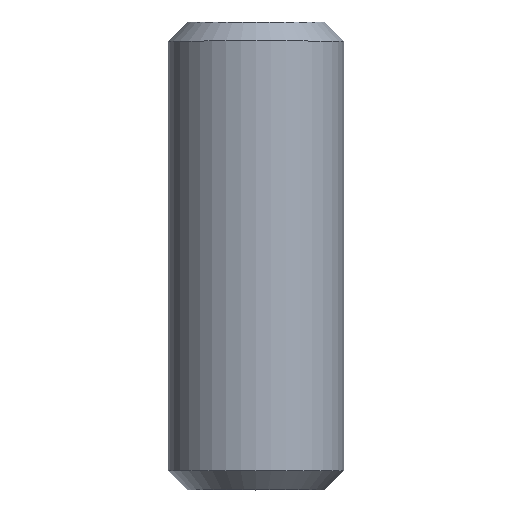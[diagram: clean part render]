
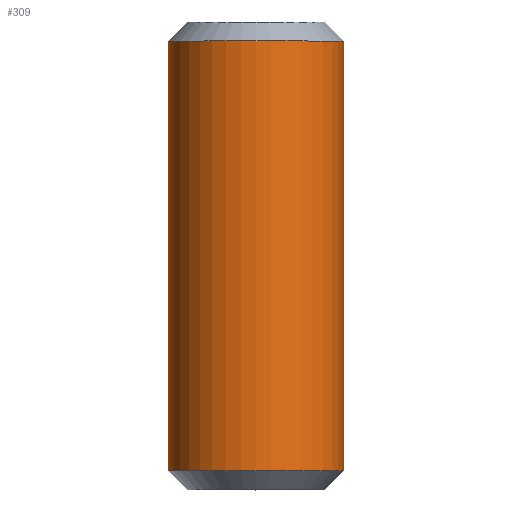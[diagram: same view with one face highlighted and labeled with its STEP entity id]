
A CAD part, top view. The second image highlights one B-rep face of the part: STEP entity #309.
In plain terms, the highlighted cylindrical face has radius 3 mm (diameter 6 mm), a full revolution.
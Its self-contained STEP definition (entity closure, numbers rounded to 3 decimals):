
#21=CYLINDRICAL_SURFACE('',#346,3.);
#84=ORIENTED_EDGE('',*,*,#159,.F.);
#85=ORIENTED_EDGE('',*,*,#158,.T.);
#158=EDGE_CURVE('',#196,#196,#217,.T.);
#159=EDGE_CURVE('',#197,#197,#218,.T.);
#196=VERTEX_POINT('',#494);
#197=VERTEX_POINT('',#497);
#217=CIRCLE('',#345,3.);
#218=CIRCLE('',#347,3.);
#234=EDGE_LOOP('',(#84));
#235=EDGE_LOOP('',(#85));
#264=FACE_BOUND('',#234,.T.);
#265=FACE_BOUND('',#235,.T.);
#309=ADVANCED_FACE('',(#264,#265),#21,.T.);
#345=AXIS2_PLACEMENT_3D('',#493,#392,#393);
#346=AXIS2_PLACEMENT_3D('',#495,#394,#395);
#347=AXIS2_PLACEMENT_3D('',#496,#396,#397);
#392=DIRECTION('',(0.,-1.,0.));
#393=DIRECTION('',(1.,0.,0.));
#394=DIRECTION('',(0.,-1.,0.));
#395=DIRECTION('',(1.,0.,0.));
#396=DIRECTION('',(0.,-1.,0.));
#397=DIRECTION('',(1.,0.,0.));
#493=CARTESIAN_POINT('',(0.,15.35,0.));
#494=CARTESIAN_POINT('',(3.,15.35,0.));
#495=CARTESIAN_POINT('',(0.,0.,0.));
#496=CARTESIAN_POINT('',(0.,0.65,0.));
#497=CARTESIAN_POINT('',(3.,0.65,0.));
